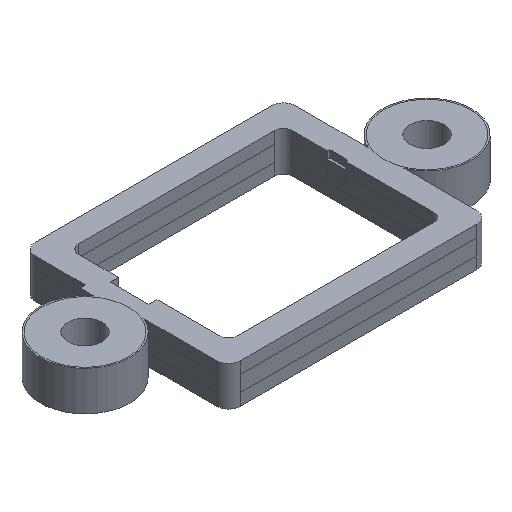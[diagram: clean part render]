
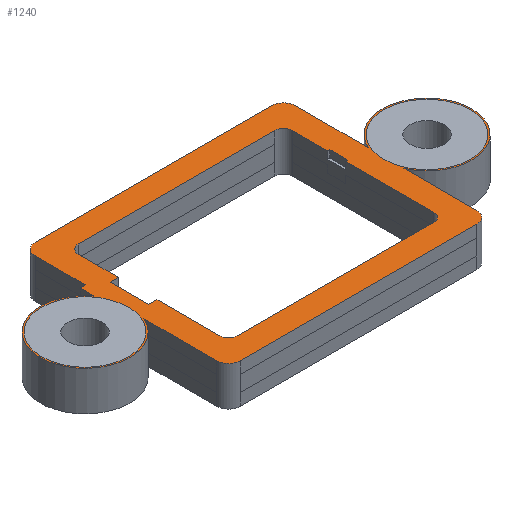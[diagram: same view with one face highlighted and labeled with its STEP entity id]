
A CAD part, isometric view. The second image highlights one B-rep face of the part: STEP entity #1240.
In plain terms, the highlighted planar face has unit normal (0, 0, 1).
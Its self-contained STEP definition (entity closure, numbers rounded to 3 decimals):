
#29=LINE('',#1776,#179);
#30=LINE('',#1780,#180);
#31=LINE('',#1784,#181);
#32=LINE('',#1786,#182);
#33=LINE('',#1788,#183);
#34=LINE('',#1792,#184);
#35=LINE('',#1796,#185);
#36=LINE('',#1799,#186);
#37=LINE('',#1804,#187);
#38=LINE('',#1806,#188);
#39=LINE('',#1810,#189);
#40=LINE('',#1814,#190);
#41=LINE('',#1816,#191);
#42=LINE('',#1818,#192);
#43=LINE('',#1820,#193);
#44=LINE('',#1822,#194);
#45=LINE('',#1826,#195);
#46=LINE('',#1830,#196);
#47=LINE('',#1832,#197);
#48=LINE('',#1833,#198);
#179=VECTOR('',#1429,1.);
#180=VECTOR('',#1432,1.);
#181=VECTOR('',#1435,1.);
#182=VECTOR('',#1436,1.);
#183=VECTOR('',#1437,1.);
#184=VECTOR('',#1440,1.);
#185=VECTOR('',#1443,1.);
#186=VECTOR('',#1446,1.);
#187=VECTOR('',#1449,1.);
#188=VECTOR('',#1450,1.);
#189=VECTOR('',#1453,1.);
#190=VECTOR('',#1456,1.);
#191=VECTOR('',#1457,1.);
#192=VECTOR('',#1458,1.);
#193=VECTOR('',#1459,1.);
#194=VECTOR('',#1460,1.);
#195=VECTOR('',#1463,1.);
#196=VECTOR('',#1466,1.);
#197=VECTOR('',#1467,1.);
#198=VECTOR('',#1468,1.);
#330=FACE_BOUND('',#410,.T.);
#331=FACE_BOUND('',#411,.T.);
#332=FACE_BOUND('',#412,.T.);
#342=FACE_OUTER_BOUND('',#409,.T.);
#409=EDGE_LOOP('',(#825,#826,#827,#828,#829,#830,#831,#832,#833,#834,#835,
#836,#837,#838));
#410=EDGE_LOOP('',(#839));
#411=EDGE_LOOP('',(#840,#841,#842,#843,#844,#845,#846,#847,#848,#849,#850,
#851,#852,#853,#854,#855));
#412=EDGE_LOOP('',(#856));
#485=CIRCLE('',#1320,2.9);
#487=CIRCLE('',#1323,3.);
#488=CIRCLE('',#1324,0.8);
#489=CIRCLE('',#1325,0.8);
#490=CIRCLE('',#1326,3.);
#491=CIRCLE('',#1327,0.8);
#492=CIRCLE('',#1328,0.8);
#493=CIRCLE('',#1329,2.9);
#494=CIRCLE('',#1330,0.6);
#495=CIRCLE('',#1331,0.6);
#496=CIRCLE('',#1332,0.6);
#497=CIRCLE('',#1333,0.6);
#517=VERTEX_POINT('',#1767);
#519=VERTEX_POINT('',#1772);
#520=VERTEX_POINT('',#1773);
#521=VERTEX_POINT('',#1775);
#522=VERTEX_POINT('',#1777);
#523=VERTEX_POINT('',#1779);
#524=VERTEX_POINT('',#1781);
#525=VERTEX_POINT('',#1783);
#526=VERTEX_POINT('',#1785);
#527=VERTEX_POINT('',#1787);
#528=VERTEX_POINT('',#1789);
#529=VERTEX_POINT('',#1791);
#530=VERTEX_POINT('',#1793);
#531=VERTEX_POINT('',#1795);
#532=VERTEX_POINT('',#1797);
#533=VERTEX_POINT('',#1800);
#534=VERTEX_POINT('',#1802);
#535=VERTEX_POINT('',#1803);
#536=VERTEX_POINT('',#1805);
#537=VERTEX_POINT('',#1807);
#538=VERTEX_POINT('',#1809);
#539=VERTEX_POINT('',#1811);
#540=VERTEX_POINT('',#1813);
#541=VERTEX_POINT('',#1815);
#542=VERTEX_POINT('',#1817);
#543=VERTEX_POINT('',#1819);
#544=VERTEX_POINT('',#1821);
#545=VERTEX_POINT('',#1823);
#546=VERTEX_POINT('',#1825);
#547=VERTEX_POINT('',#1827);
#548=VERTEX_POINT('',#1829);
#549=VERTEX_POINT('',#1831);
#641=EDGE_CURVE('',#517,#517,#485,.T.);
#643=EDGE_CURVE('',#519,#520,#487,.T.);
#644=EDGE_CURVE('',#520,#521,#29,.T.);
#645=EDGE_CURVE('',#521,#522,#488,.T.);
#646=EDGE_CURVE('',#523,#522,#30,.T.);
#647=EDGE_CURVE('',#523,#524,#489,.T.);
#648=EDGE_CURVE('',#525,#524,#31,.T.);
#649=EDGE_CURVE('',#525,#526,#32,.T.);
#650=EDGE_CURVE('',#526,#527,#33,.T.);
#651=EDGE_CURVE('',#527,#528,#490,.T.);
#652=EDGE_CURVE('',#529,#528,#34,.T.);
#653=EDGE_CURVE('',#529,#530,#491,.T.);
#654=EDGE_CURVE('',#530,#531,#35,.T.);
#655=EDGE_CURVE('',#531,#532,#492,.T.);
#656=EDGE_CURVE('',#532,#519,#36,.T.);
#657=EDGE_CURVE('',#533,#533,#493,.T.);
#658=EDGE_CURVE('',#534,#535,#37,.T.);
#659=EDGE_CURVE('',#535,#536,#38,.T.);
#660=EDGE_CURVE('',#536,#537,#494,.T.);
#661=EDGE_CURVE('',#537,#538,#39,.T.);
#662=EDGE_CURVE('',#538,#539,#495,.T.);
#663=EDGE_CURVE('',#539,#540,#40,.T.);
#664=EDGE_CURVE('',#540,#541,#41,.T.);
#665=EDGE_CURVE('',#541,#542,#42,.T.);
#666=EDGE_CURVE('',#542,#543,#43,.T.);
#667=EDGE_CURVE('',#543,#544,#44,.T.);
#668=EDGE_CURVE('',#544,#545,#496,.T.);
#669=EDGE_CURVE('',#546,#545,#45,.T.);
#670=EDGE_CURVE('',#546,#547,#497,.T.);
#671=EDGE_CURVE('',#547,#548,#46,.T.);
#672=EDGE_CURVE('',#548,#549,#47,.T.);
#673=EDGE_CURVE('',#549,#534,#48,.T.);
#825=ORIENTED_EDGE('',*,*,#643,.T.);
#826=ORIENTED_EDGE('',*,*,#644,.T.);
#827=ORIENTED_EDGE('',*,*,#645,.T.);
#828=ORIENTED_EDGE('',*,*,#646,.F.);
#829=ORIENTED_EDGE('',*,*,#647,.T.);
#830=ORIENTED_EDGE('',*,*,#648,.F.);
#831=ORIENTED_EDGE('',*,*,#649,.T.);
#832=ORIENTED_EDGE('',*,*,#650,.T.);
#833=ORIENTED_EDGE('',*,*,#651,.T.);
#834=ORIENTED_EDGE('',*,*,#652,.F.);
#835=ORIENTED_EDGE('',*,*,#653,.T.);
#836=ORIENTED_EDGE('',*,*,#654,.T.);
#837=ORIENTED_EDGE('',*,*,#655,.T.);
#838=ORIENTED_EDGE('',*,*,#656,.T.);
#839=ORIENTED_EDGE('',*,*,#657,.F.);
#840=ORIENTED_EDGE('',*,*,#658,.T.);
#841=ORIENTED_EDGE('',*,*,#659,.T.);
#842=ORIENTED_EDGE('',*,*,#660,.T.);
#843=ORIENTED_EDGE('',*,*,#661,.T.);
#844=ORIENTED_EDGE('',*,*,#662,.T.);
#845=ORIENTED_EDGE('',*,*,#663,.T.);
#846=ORIENTED_EDGE('',*,*,#664,.T.);
#847=ORIENTED_EDGE('',*,*,#665,.T.);
#848=ORIENTED_EDGE('',*,*,#666,.T.);
#849=ORIENTED_EDGE('',*,*,#667,.T.);
#850=ORIENTED_EDGE('',*,*,#668,.T.);
#851=ORIENTED_EDGE('',*,*,#669,.F.);
#852=ORIENTED_EDGE('',*,*,#670,.T.);
#853=ORIENTED_EDGE('',*,*,#671,.T.);
#854=ORIENTED_EDGE('',*,*,#672,.T.);
#855=ORIENTED_EDGE('',*,*,#673,.T.);
#856=ORIENTED_EDGE('',*,*,#641,.F.);
#1188=PLANE('',#1322);
#1240=ADVANCED_FACE('',(#342,#330,#331,#332),#1188,.T.);
#1320=AXIS2_PLACEMENT_3D('',#1768,#1421,#1422);
#1322=AXIS2_PLACEMENT_3D('',#1771,#1425,#1426);
#1323=AXIS2_PLACEMENT_3D('',#1774,#1427,#1428);
#1324=AXIS2_PLACEMENT_3D('',#1778,#1430,#1431);
#1325=AXIS2_PLACEMENT_3D('',#1782,#1433,#1434);
#1326=AXIS2_PLACEMENT_3D('',#1790,#1438,#1439);
#1327=AXIS2_PLACEMENT_3D('',#1794,#1441,#1442);
#1328=AXIS2_PLACEMENT_3D('',#1798,#1444,#1445);
#1329=AXIS2_PLACEMENT_3D('',#1801,#1447,#1448);
#1330=AXIS2_PLACEMENT_3D('',#1808,#1451,#1452);
#1331=AXIS2_PLACEMENT_3D('',#1812,#1454,#1455);
#1332=AXIS2_PLACEMENT_3D('',#1824,#1461,#1462);
#1333=AXIS2_PLACEMENT_3D('',#1828,#1464,#1465);
#1421=DIRECTION('center_axis',(0.,0.,1.));
#1422=DIRECTION('ref_axis',(1.,0.,0.));
#1425=DIRECTION('center_axis',(0.,0.,1.));
#1426=DIRECTION('ref_axis',(1.,0.,0.));
#1427=DIRECTION('center_axis',(0.,0.,1.));
#1428=DIRECTION('ref_axis',(1.,0.,0.));
#1429=DIRECTION('',(0.,1.,0.));
#1430=DIRECTION('center_axis',(0.,0.,1.));
#1431=DIRECTION('ref_axis',(1.,0.,0.));
#1432=DIRECTION('',(1.,0.,0.));
#1433=DIRECTION('center_axis',(0.,0.,1.));
#1434=DIRECTION('ref_axis',(1.,0.,0.));
#1435=DIRECTION('',(0.,1.,0.));
#1436=DIRECTION('',(-1.,0.,0.));
#1437=DIRECTION('',(0.,-1.,0.));
#1438=DIRECTION('center_axis',(0.,0.,1.));
#1439=DIRECTION('ref_axis',(1.,0.,0.));
#1440=DIRECTION('',(0.,1.,0.));
#1441=DIRECTION('center_axis',(0.,0.,1.));
#1442=DIRECTION('ref_axis',(1.,0.,0.));
#1443=DIRECTION('',(1.,0.,0.));
#1444=DIRECTION('center_axis',(0.,0.,1.));
#1445=DIRECTION('ref_axis',(1.,0.,0.));
#1446=DIRECTION('',(0.,1.,0.));
#1447=DIRECTION('center_axis',(0.,0.,1.));
#1448=DIRECTION('ref_axis',(1.,0.,0.));
#1449=DIRECTION('',(-1.,0.,0.));
#1450=DIRECTION('',(0.,-1.,0.));
#1451=DIRECTION('center_axis',(0.,0.,-1.));
#1452=DIRECTION('ref_axis',(1.,0.,0.));
#1453=DIRECTION('',(-1.,0.,0.));
#1454=DIRECTION('center_axis',(0.,0.,-1.));
#1455=DIRECTION('ref_axis',(1.,0.,0.));
#1456=DIRECTION('',(0.,1.,0.));
#1457=DIRECTION('',(-1.,0.,0.));
#1458=DIRECTION('',(0.,1.,0.));
#1459=DIRECTION('',(1.,0.,0.));
#1460=DIRECTION('',(0.,1.,0.));
#1461=DIRECTION('center_axis',(0.,0.,-1.));
#1462=DIRECTION('ref_axis',(1.,0.,0.));
#1463=DIRECTION('',(-1.,0.,0.));
#1464=DIRECTION('center_axis',(0.,0.,-1.));
#1465=DIRECTION('ref_axis',(1.,0.,0.));
#1466=DIRECTION('',(0.,-1.,0.));
#1467=DIRECTION('',(1.,0.,0.));
#1468=DIRECTION('',(0.,-1.,0.));
#1767=CARTESIAN_POINT('',(14.4,-13.238,-5.1));
#1768=CARTESIAN_POINT('Origin',(11.5,-13.238,-5.1));
#1771=CARTESIAN_POINT('Origin',(0.,-13.238,-5.1));
#1772=CARTESIAN_POINT('',(8.75,-14.437,-5.1));
#1773=CARTESIAN_POINT('',(8.75,-12.039,-5.1));
#1774=CARTESIAN_POINT('Origin',(11.5,-13.238,-5.1));
#1775=CARTESIAN_POINT('',(8.75,-7.138,-5.1));
#1776=CARTESIAN_POINT('',(8.75,-13.238,-5.1));
#1777=CARTESIAN_POINT('',(7.95,-6.338,-5.1));
#1778=CARTESIAN_POINT('Origin',(7.95,-7.138,-5.1));
#1779=CARTESIAN_POINT('',(-7.95,-6.338,-5.1));
#1780=CARTESIAN_POINT('',(0.,-6.338,-5.1));
#1781=CARTESIAN_POINT('',(-8.75,-7.138,-5.1));
#1782=CARTESIAN_POINT('Origin',(-7.95,-7.138,-5.1));
#1783=CARTESIAN_POINT('',(-8.75,-10.5,-5.1));
#1784=CARTESIAN_POINT('',(-8.75,-13.238,-5.1));
#1785=CARTESIAN_POINT('',(-9.1,-10.5,-5.1));
#1786=CARTESIAN_POINT('',(-8.92,-10.5,-5.1));
#1787=CARTESIAN_POINT('',(-9.1,-11.438,-5.1));
#1788=CARTESIAN_POINT('',(-9.1,-12.25,-5.1));
#1789=CARTESIAN_POINT('',(-8.75,-14.437,-5.1));
#1790=CARTESIAN_POINT('Origin',(-11.5,-13.238,-5.1));
#1791=CARTESIAN_POINT('',(-8.75,-19.338,-5.1));
#1792=CARTESIAN_POINT('',(-8.75,-13.238,-5.1));
#1793=CARTESIAN_POINT('',(-7.95,-20.138,-5.1));
#1794=CARTESIAN_POINT('Origin',(-7.95,-19.338,-5.1));
#1795=CARTESIAN_POINT('',(7.95,-20.138,-5.1));
#1796=CARTESIAN_POINT('',(0.,-20.138,-5.1));
#1797=CARTESIAN_POINT('',(8.75,-19.338,-5.1));
#1798=CARTESIAN_POINT('Origin',(7.95,-19.338,-5.1));
#1799=CARTESIAN_POINT('',(8.75,-13.238,-5.1));
#1800=CARTESIAN_POINT('',(-8.6,-13.238,-5.1));
#1801=CARTESIAN_POINT('Origin',(-11.5,-13.238,-5.1));
#1802=CARTESIAN_POINT('',(7.35,-12.06,-5.1));
#1803=CARTESIAN_POINT('',(7.2,-12.06,-5.1));
#1804=CARTESIAN_POINT('',(3.175,-12.06,-5.1));
#1805=CARTESIAN_POINT('',(7.2,-17.988,-5.1));
#1806=CARTESIAN_POINT('',(7.2,-8.488,-5.1));
#1807=CARTESIAN_POINT('',(6.6,-18.588,-5.1));
#1808=CARTESIAN_POINT('Origin',(6.6,-17.988,-5.1));
#1809=CARTESIAN_POINT('',(-6.6,-18.588,-5.1));
#1810=CARTESIAN_POINT('',(-3.3,-18.588,-5.1));
#1811=CARTESIAN_POINT('',(-7.2,-17.988,-5.1));
#1812=CARTESIAN_POINT('Origin',(-6.6,-17.988,-5.1));
#1813=CARTESIAN_POINT('',(-7.2,-13.776,-5.1));
#1814=CARTESIAN_POINT('',(-7.2,-17.988,-5.1));
#1815=CARTESIAN_POINT('',(-7.758,-13.776,-5.1));
#1816=CARTESIAN_POINT('',(-3.429,-13.776,-5.1));
#1817=CARTESIAN_POINT('',(-7.758,-11.176,-5.1));
#1818=CARTESIAN_POINT('',(-7.758,-12.857,-5.1));
#1819=CARTESIAN_POINT('',(-7.2,-11.176,-5.1));
#1820=CARTESIAN_POINT('',(-3.429,-11.176,-5.1));
#1821=CARTESIAN_POINT('',(-7.2,-8.488,-5.1));
#1822=CARTESIAN_POINT('',(-7.2,-17.988,-5.1));
#1823=CARTESIAN_POINT('',(-6.6,-7.888,-5.1));
#1824=CARTESIAN_POINT('Origin',(-6.6,-8.488,-5.1));
#1825=CARTESIAN_POINT('',(6.6,-7.888,-5.1));
#1826=CARTESIAN_POINT('',(-3.3,-7.888,-5.1));
#1827=CARTESIAN_POINT('',(7.2,-8.488,-5.1));
#1828=CARTESIAN_POINT('Origin',(6.6,-8.488,-5.1));
#1829=CARTESIAN_POINT('',(7.2,-10.86,-5.1));
#1830=CARTESIAN_POINT('',(7.2,-8.488,-5.1));
#1831=CARTESIAN_POINT('',(7.35,-10.86,-5.1));
#1832=CARTESIAN_POINT('',(3.175,-10.86,-5.1));
#1833=CARTESIAN_POINT('',(7.35,-12.349,-5.1));
